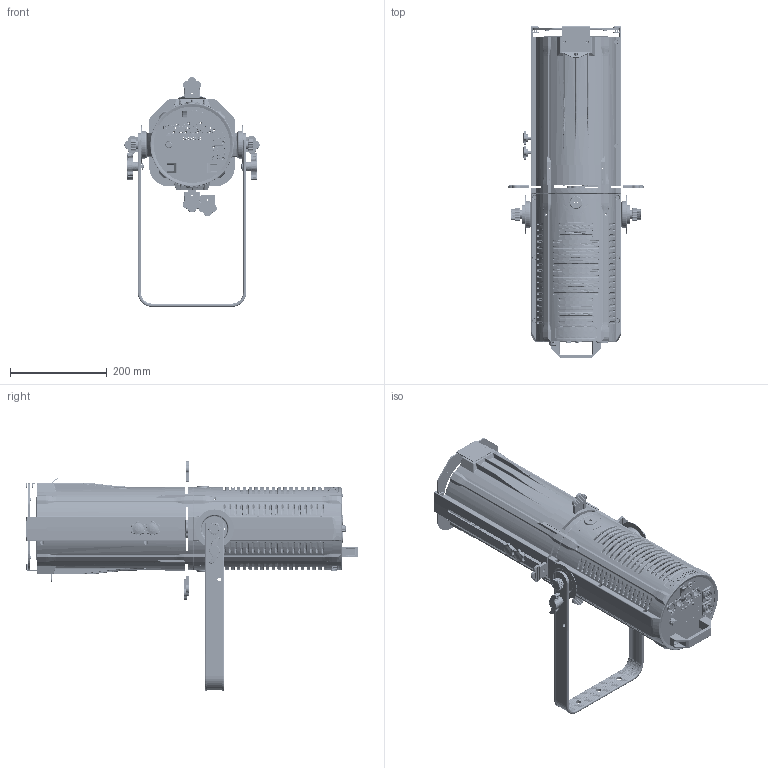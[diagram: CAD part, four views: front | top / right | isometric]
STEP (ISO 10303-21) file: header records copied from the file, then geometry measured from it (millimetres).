
FILE_DESCRIPTION((''),'2;1');
FILE_NAME('0001_ASM','2025-07-19T11:40:21',('ALY'),(''),'CREO PARAMETRIC BY PTC INC, 2022164','CREO PARAMETRIC BY PTC INC, 2022164','');
FILE_SCHEMA(('AUTOMOTIVE_DESIGN { 1 0 10303 214 1 1 1 1 }'));
Length unit declared in the file: millimetre
Products named in the file (39): WK-CX; TSGD; 0002; BXSZ-A; 0003; TJ-A_-___________ASM; XN-M8C; JBB-A; DGB-CX1; YSP-12; 0006; KJ-3; SPJ-5; SPJ-6; LD-A; TAJ-444_ASM; GX-C_ASM; DWEI-44; XY-80; TS-C; LS-F; XN-88; NY-S; TS-90; 40001; 3P000; 5P000; 43P-5P000_ASM; 0008; _0001; _0002; 00; 0012; 001; 200W00; 0014; 0001_ASM
Assembly tree (55 placements, depth 4):
  0001_ASM
    WK-CX  x2
    TSGD  x2
    0002
    BXSZ-A
    GX-C_ASM
      TJ-A_-___________ASM  x4
        0003
      XN-M8C  x2
      JBB-A  x2
      DGB-CX1  x2
      YSP-12
      0006
      KJ-3
      SPJ-5
      SPJ-6
      TAJ-444_ASM
        LD-A  x2
        0003
    DWEI-44
    XY-80  x2
    TS-C
    LS-F  x2
    XN-88  x2
    NY-S  x2
    TS-90
    43P-5P000_ASM
      40001
      3P000
      3P000
      5P000
      5P000
    0008
    _0001
    _0002
    00
    0012
    001  x4
    200W00
    0014
Bounding box: 279.93 x 687.06 x 475.47 mm (x, y, z)
Volume: 1936974.7 mm3; surface area: 1456105.1 mm2
Topology: 58 solids, 60 shells, 13015 faces, 33816 edges, 20838 vertices
Faces by surface type: plane 5399, cylinder 3370, bspline 2530, torus 967, cone 552, sphere 186, extrusion 11
Entity records: 387124 total; most frequent: CARTESIAN_POINT 135110, ORIENTED_EDGE 40620, DIRECTION 33823, EDGE_CURVE 20310, PRESENTATION_STYLE_ASSIGNMENT 19107, STYLED_ITEM 18293, CURVE_STYLE 17514, VERTEX_POINT 12590
